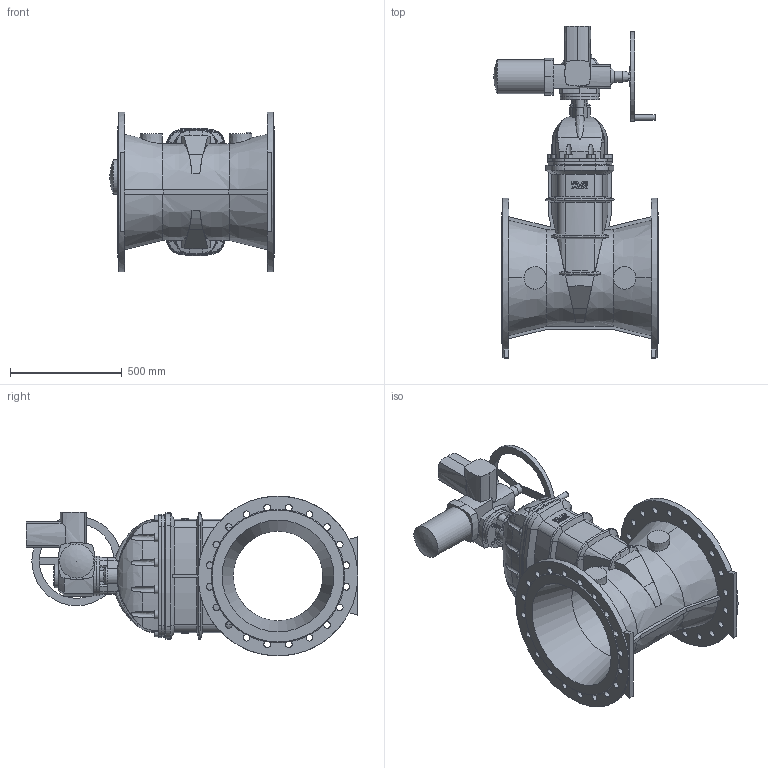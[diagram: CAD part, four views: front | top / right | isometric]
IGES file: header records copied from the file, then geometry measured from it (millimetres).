
Start section: SolidWorks IGES file using analytic representation for surfaces
Global section: file name: D:\Arthur\For Will\Finished\O_15_72_DN500 with AUMA\O_15_72_DN500_00_iges with AUMA.IGS; native system: SolidWorks 2012; preprocessor: SolidWorks 2012; author: aran; date: 150608.161521; units: millimetre
Bounding box: 735 x 1484.5 x 715 mm (x, y, z)
Surface area: 4568479.6 mm2 (no closed solid volume)
Topology: 0 solids, 0 shells, 573 faces, 3323 edges, 3246 vertices
Faces by surface type: revolution 350, bspline 223
